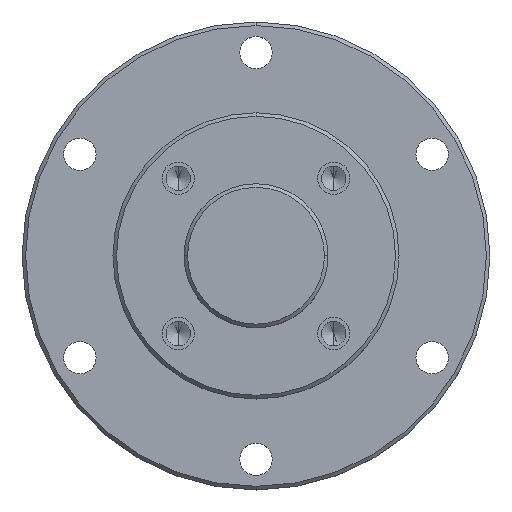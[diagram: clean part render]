
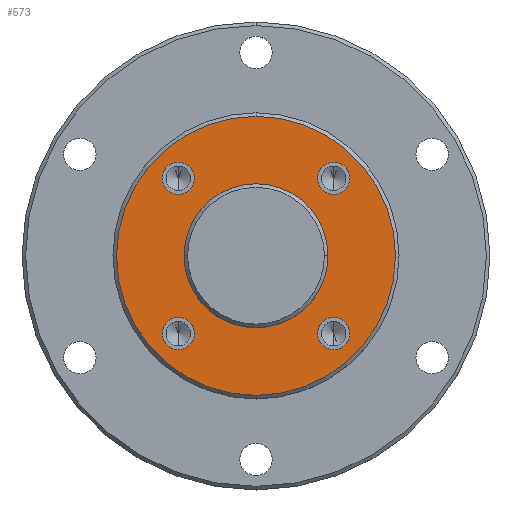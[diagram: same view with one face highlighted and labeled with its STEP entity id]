
A CAD part, top view. The second image highlights one B-rep face of the part: STEP entity #573.
In plain terms, the highlighted planar face has unit normal (0, 0, 1).
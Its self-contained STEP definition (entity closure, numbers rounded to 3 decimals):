
#20 = FACE_BOUND ( 'NONE', #871, .T. ) ;
#277 = DIRECTION ( 'NONE',  ( 0., 0., 1. ) ) ;
#319 = AXIS2_PLACEMENT_3D ( 'NONE', #568, #2375, #2402 ) ;
#369 = CIRCLE ( 'NONE', #461, 38.75 ) ;
#447 = EDGE_LOOP ( 'NONE', ( #1952, #3298 ) ) ;
#461 = AXIS2_PLACEMENT_3D ( 'NONE', #2155, #4302, #4269 ) ;
#476 = ORIENTED_EDGE ( 'NONE', *, *, #1044, .T. ) ;
#497 = CARTESIAN_POINT ( 'NONE',  ( 0., 0., 0. ) ) ;
#568 = CARTESIAN_POINT ( 'NONE',  ( 21.567, -21.567, 0. ) ) ;
#573 = ADVANCED_FACE ( 'NONE', ( #3487, #3510, #20, #4687, #3288, #1839 ), #1079, .F. ) ;
#637 = AXIS2_PLACEMENT_3D ( 'NONE', #2653, #1563, #4114 ) ;
#645 = DIRECTION ( 'NONE',  ( 0., 0., 1. ) ) ;
#672 = DIRECTION ( 'NONE',  ( 0., 0., 1. ) ) ;
#697 = CARTESIAN_POINT ( 'NONE',  ( -26.067, 21.567, 0. ) ) ;
#714 = DIRECTION ( 'NONE',  ( -1., 0., 0. ) ) ;
#730 = VERTEX_POINT ( 'NONE', #2227 ) ;
#764 = CIRCLE ( 'NONE', #3587, 4.5 ) ;
#771 = CARTESIAN_POINT ( 'NONE',  ( 17.067, -21.567, 0. ) ) ;
#808 = EDGE_CURVE ( 'NONE', #1851, #2782, #1395, .T. ) ;
#858 = ORIENTED_EDGE ( 'NONE', *, *, #861, .F. ) ;
#861 = EDGE_CURVE ( 'NONE', #2782, #1851, #1008, .T. ) ;
#871 = EDGE_LOOP ( 'NONE', ( #1134, #2532 ) ) ;
#944 = CARTESIAN_POINT ( 'NONE',  ( -17.067, -21.567, 0. ) ) ;
#948 = CIRCLE ( 'NONE', #637, 4.5 ) ;
#959 = DIRECTION ( 'NONE',  ( 1., 0., 0. ) ) ;
#1008 = CIRCLE ( 'NONE', #3670, 20. ) ;
#1024 = EDGE_CURVE ( 'NONE', #4441, #2111, #4341, .T. ) ;
#1044 = EDGE_CURVE ( 'NONE', #730, #2394, #369, .T. ) ;
#1048 = CARTESIAN_POINT ( 'NONE',  ( 26.067, -21.567, 0. ) ) ;
#1057 = EDGE_CURVE ( 'NONE', #2027, #2652, #3893, .T. ) ;
#1079 = PLANE ( 'NONE',  #4130 ) ;
#1094 = EDGE_CURVE ( 'NONE', #4197, #3668, #764, .T. ) ;
#1099 = CARTESIAN_POINT ( 'NONE',  ( -21.567, -21.567, 0. ) ) ;
#1127 = EDGE_CURVE ( 'NONE', #2394, #730, #4347, .T. ) ;
#1134 = ORIENTED_EDGE ( 'NONE', *, *, #1094, .F. ) ;
#1169 = CARTESIAN_POINT ( 'NONE',  ( 0., -38.75, 0. ) ) ;
#1181 = EDGE_LOOP ( 'NONE', ( #4396, #1411 ) ) ;
#1288 = ORIENTED_EDGE ( 'NONE', *, *, #1127, .T. ) ;
#1369 = EDGE_CURVE ( 'NONE', #3668, #4197, #4502, .T. ) ;
#1386 = AXIS2_PLACEMENT_3D ( 'NONE', #497, #4058, #3698 ) ;
#1395 = CIRCLE ( 'NONE', #3976, 20. ) ;
#1404 = CARTESIAN_POINT ( 'NONE',  ( 26.067, 21.567, 0. ) ) ;
#1411 = ORIENTED_EDGE ( 'NONE', *, *, #1024, .F. ) ;
#1415 = DIRECTION ( 'NONE',  ( 0., 0., 1. ) ) ;
#1434 = DIRECTION ( 'NONE',  ( 0., 1., 0. ) ) ;
#1472 = DIRECTION ( 'NONE',  ( 0., 0., 1. ) ) ;
#1563 = DIRECTION ( 'NONE',  ( 0., 0., 1. ) ) ;
#1748 = CARTESIAN_POINT ( 'NONE',  ( 21.567, 21.567, 0. ) ) ;
#1749 = DIRECTION ( 'NONE',  ( 0., 0., -1. ) ) ;
#1769 = AXIS2_PLACEMENT_3D ( 'NONE', #3881, #3047, #2381 ) ;
#1813 = EDGE_LOOP ( 'NONE', ( #2667, #2481 ) ) ;
#1839 = FACE_BOUND ( 'NONE', #447, .T. ) ;
#1851 = VERTEX_POINT ( 'NONE', #2023 ) ;
#1910 = VERTEX_POINT ( 'NONE', #1404 ) ;
#1914 = AXIS2_PLACEMENT_3D ( 'NONE', #1099, #277, #714 ) ;
#1952 = ORIENTED_EDGE ( 'NONE', *, *, #3035, .F. ) ;
#1981 = CARTESIAN_POINT ( 'NONE',  ( 0., 0., 0. ) ) ;
#2011 = DIRECTION ( 'NONE',  ( 0., 0., 1. ) ) ;
#2023 = CARTESIAN_POINT ( 'NONE',  ( -20., 0., 0. ) ) ;
#2027 = VERTEX_POINT ( 'NONE', #771 ) ;
#2111 = VERTEX_POINT ( 'NONE', #944 ) ;
#2155 = CARTESIAN_POINT ( 'NONE',  ( 0., 0., 0. ) ) ;
#2227 = CARTESIAN_POINT ( 'NONE',  ( 0., 38.75, 0. ) ) ;
#2294 = AXIS2_PLACEMENT_3D ( 'NONE', #3942, #645, #3605 ) ;
#2375 = DIRECTION ( 'NONE',  ( 0., 0., 1. ) ) ;
#2381 = DIRECTION ( 'NONE',  ( 1., 0., 0. ) ) ;
#2394 = VERTEX_POINT ( 'NONE', #1169 ) ;
#2402 = DIRECTION ( 'NONE',  ( 1., 0., 0. ) ) ;
#2415 = CARTESIAN_POINT ( 'NONE',  ( -26.067, -21.567, 0. ) ) ;
#2460 = CARTESIAN_POINT ( 'NONE',  ( 20., 0., 0. ) ) ;
#2481 = ORIENTED_EDGE ( 'NONE', *, *, #4584, .F. ) ;
#2532 = ORIENTED_EDGE ( 'NONE', *, *, #1369, .F. ) ;
#2572 = DIRECTION ( 'NONE',  ( 1., 0., 0. ) ) ;
#2652 = VERTEX_POINT ( 'NONE', #1048 ) ;
#2653 = CARTESIAN_POINT ( 'NONE',  ( -21.567, -21.567, 0. ) ) ;
#2667 = ORIENTED_EDGE ( 'NONE', *, *, #2944, .F. ) ;
#2782 = VERTEX_POINT ( 'NONE', #2460 ) ;
#2863 = DIRECTION ( 'NONE',  ( 1., 0., 0. ) ) ;
#2937 = CARTESIAN_POINT ( 'NONE',  ( -17.067, 21.567, 0. ) ) ;
#2944 = EDGE_CURVE ( 'NONE', #1910, #4078, #3989, .T. ) ;
#3035 = EDGE_CURVE ( 'NONE', #2652, #2027, #3381, .T. ) ;
#3047 = DIRECTION ( 'NONE',  ( 0., 0., 1. ) ) ;
#3054 = CARTESIAN_POINT ( 'NONE',  ( 0., 0., 0. ) ) ;
#3266 = EDGE_CURVE ( 'NONE', #2111, #4441, #948, .T. ) ;
#3288 = FACE_BOUND ( 'NONE', #1813, .T. ) ;
#3298 = ORIENTED_EDGE ( 'NONE', *, *, #1057, .F. ) ;
#3381 = CIRCLE ( 'NONE', #319, 4.5 ) ;
#3399 = CARTESIAN_POINT ( 'NONE',  ( 21.567, 21.567, 0. ) ) ;
#3487 = FACE_BOUND ( 'NONE', #3933, .T. ) ;
#3510 = FACE_OUTER_BOUND ( 'NONE', #4464, .T. ) ;
#3555 = CARTESIAN_POINT ( 'NONE',  ( -21.567, 21.567, 0. ) ) ;
#3584 = CIRCLE ( 'NONE', #4045, 4.5 ) ;
#3587 = AXIS2_PLACEMENT_3D ( 'NONE', #3555, #1415, #2863 ) ;
#3605 = DIRECTION ( 'NONE',  ( 1., 0., 0. ) ) ;
#3608 = DIRECTION ( 'NONE',  ( -1., 0., 0. ) ) ;
#3668 = VERTEX_POINT ( 'NONE', #697 ) ;
#3670 = AXIS2_PLACEMENT_3D ( 'NONE', #1981, #2011, #959 ) ;
#3698 = DIRECTION ( 'NONE',  ( 0., 1., 0. ) ) ;
#3721 = DIRECTION ( 'NONE',  ( 0., 0., 1. ) ) ;
#3881 = CARTESIAN_POINT ( 'NONE',  ( -21.567, 21.567, 0. ) ) ;
#3893 = CIRCLE ( 'NONE', #2294, 4.5 ) ;
#3933 = EDGE_LOOP ( 'NONE', ( #858, #4410 ) ) ;
#3942 = CARTESIAN_POINT ( 'NONE',  ( 21.567, -21.567, 0. ) ) ;
#3976 = AXIS2_PLACEMENT_3D ( 'NONE', #3054, #3721, #2572 ) ;
#3989 = CIRCLE ( 'NONE', #4296, 4.5 ) ;
#4045 = AXIS2_PLACEMENT_3D ( 'NONE', #1748, #672, #3608 ) ;
#4058 = DIRECTION ( 'NONE',  ( 0., 0., 1. ) ) ;
#4078 = VERTEX_POINT ( 'NONE', #4287 ) ;
#4114 = DIRECTION ( 'NONE',  ( -1., 0., 0. ) ) ;
#4130 = AXIS2_PLACEMENT_3D ( 'NONE', #4370, #1749, #1434 ) ;
#4197 = VERTEX_POINT ( 'NONE', #2937 ) ;
#4269 = DIRECTION ( 'NONE',  ( 0., 1., 0. ) ) ;
#4287 = CARTESIAN_POINT ( 'NONE',  ( 17.067, 21.567, 0. ) ) ;
#4296 = AXIS2_PLACEMENT_3D ( 'NONE', #3399, #1472, #4381 ) ;
#4302 = DIRECTION ( 'NONE',  ( 0., 0., 1. ) ) ;
#4341 = CIRCLE ( 'NONE', #1914, 4.5 ) ;
#4347 = CIRCLE ( 'NONE', #1386, 38.75 ) ;
#4370 = CARTESIAN_POINT ( 'NONE',  ( 0., 39.75, 0. ) ) ;
#4381 = DIRECTION ( 'NONE',  ( -1., 0., 0. ) ) ;
#4396 = ORIENTED_EDGE ( 'NONE', *, *, #3266, .F. ) ;
#4410 = ORIENTED_EDGE ( 'NONE', *, *, #808, .F. ) ;
#4441 = VERTEX_POINT ( 'NONE', #2415 ) ;
#4464 = EDGE_LOOP ( 'NONE', ( #476, #1288 ) ) ;
#4502 = CIRCLE ( 'NONE', #1769, 4.5 ) ;
#4584 = EDGE_CURVE ( 'NONE', #4078, #1910, #3584, .T. ) ;
#4687 = FACE_BOUND ( 'NONE', #1181, .T. ) ;
